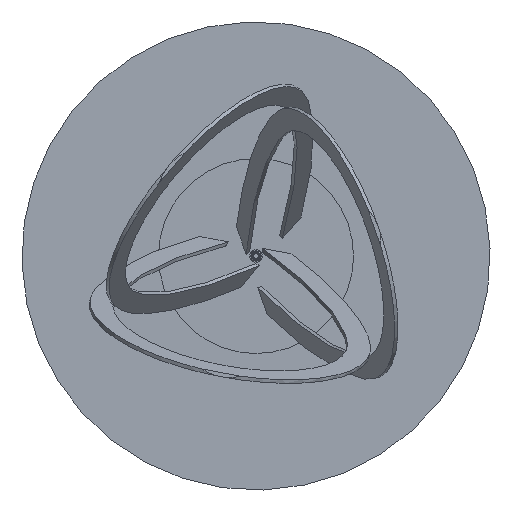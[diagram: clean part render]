
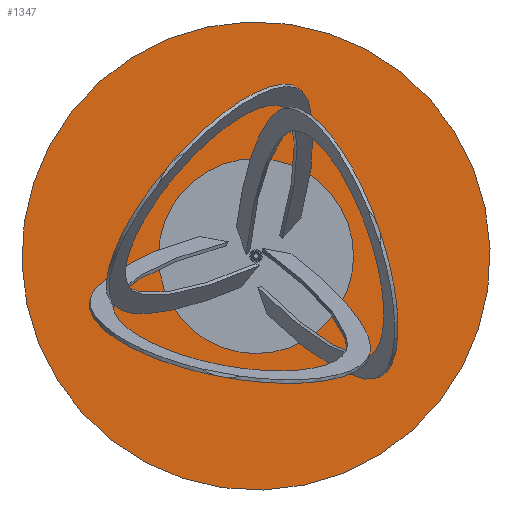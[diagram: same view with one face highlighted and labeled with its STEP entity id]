
A CAD part, front view. The second image highlights one B-rep face of the part: STEP entity #1347.
In plain terms, the highlighted planar face has unit normal (0, -1, 0).
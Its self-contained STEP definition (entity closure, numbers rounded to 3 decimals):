
#187 = CARTESIAN_POINT ( 'NONE',  ( 0., 0., 0. ) ) ;
#552 = ORIENTED_EDGE ( 'NONE', *, *, #1914, .T. ) ;
#867 = DIRECTION ( 'NONE',  ( 0., 0., -1. ) ) ;
#905 = AXIS2_PLACEMENT_3D ( 'NONE', #187, #4392, #867 ) ;
#1026 = DIRECTION ( 'NONE',  ( 0., 0., -1. ) ) ;
#1102 = ORIENTED_EDGE ( 'NONE', *, *, #1818, .T. ) ;
#1347 = ADVANCED_FACE ( 'NONE', ( #4300 ), #2539, .T. ) ;
#1382 = CARTESIAN_POINT ( 'NONE',  ( 0., 0., 0. ) ) ;
#1479 = CIRCLE ( 'NONE', #1833, 300. ) ;
#1818 = EDGE_CURVE ( 'NONE', #2106, #3231, #2044, .T. ) ;
#1833 = AXIS2_PLACEMENT_3D ( 'NONE', #2665, #3727, #1026 ) ;
#1914 = EDGE_CURVE ( 'NONE', #3231, #2106, #1479, .T. ) ;
#2044 = CIRCLE ( 'NONE', #2408, 300. ) ;
#2106 = VERTEX_POINT ( 'NONE', #4068 ) ;
#2408 = AXIS2_PLACEMENT_3D ( 'NONE', #1382, #3749, #3346 ) ;
#2539 = PLANE ( 'NONE',  #905 ) ;
#2665 = CARTESIAN_POINT ( 'NONE',  ( 0., 0., 0. ) ) ;
#3231 = VERTEX_POINT ( 'NONE', #3381 ) ;
#3346 = DIRECTION ( 'NONE',  ( 0., 0., -1. ) ) ;
#3381 = CARTESIAN_POINT ( 'NONE',  ( 0., 0., 300. ) ) ;
#3682 = EDGE_LOOP ( 'NONE', ( #1102, #552 ) ) ;
#3727 = DIRECTION ( 'NONE',  ( 0., -1., 0. ) ) ;
#3749 = DIRECTION ( 'NONE',  ( 0., -1., 0. ) ) ;
#4068 = CARTESIAN_POINT ( 'NONE',  ( 0., 0., -300. ) ) ;
#4300 = FACE_OUTER_BOUND ( 'NONE', #3682, .T. ) ;
#4392 = DIRECTION ( 'NONE',  ( 0., -1., 0. ) ) ;
